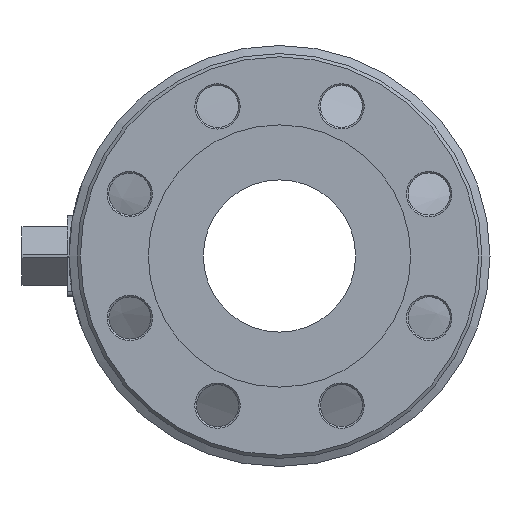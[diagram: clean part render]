
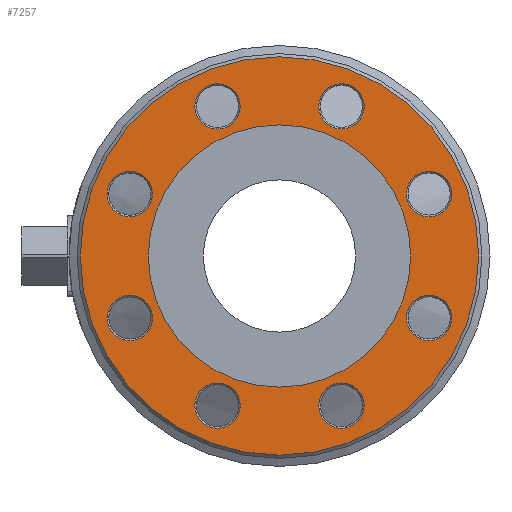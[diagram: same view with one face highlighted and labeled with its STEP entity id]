
A CAD part, left-side view. The second image highlights one B-rep face of the part: STEP entity #7257.
In plain terms, the highlighted planar face has unit normal (-1, 0, 0).
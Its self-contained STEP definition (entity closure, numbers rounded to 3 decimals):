
#7138=CARTESIAN_POINT('',(-142.5,28.369,-102.287));
#7139=VERTEX_POINT('',#7138);
#7140=CARTESIAN_POINT('',(-142.5,38.268,-92.388));
#7141=DIRECTION('',(-1.0,0.0,0.0));
#7142=DIRECTION('',(0.0,0.707,0.707));
#7143=AXIS2_PLACEMENT_3D('',#7140,#7141,#7142);
#7144=CIRCLE('',#7143,14.);
#7145=EDGE_CURVE('',#7139,#7139,#7144,.T.);
#7150=CARTESIAN_POINT('',(-142.5,-102.,0.0));
#7151=DIRECTION('',(-1.0,0.0,0.0));
#7152=DIRECTION('',(0.0,0.0,1.0));
#7153=AXIS2_PLACEMENT_3D('',#7150,#7151,#7152);
#7154=PLANE('',#7153);
#7155=CARTESIAN_POINT('',(-142.5,-123.,0.0));
#7156=VERTEX_POINT('',#7155);
#7157=CARTESIAN_POINT('',(-142.5,0.0,0.0));
#7158=DIRECTION('',(1.0,0.0,0.0));
#7159=DIRECTION('',(0.0,-1.0,0.0));
#7160=AXIS2_PLACEMENT_3D('',#7157,#7158,#7159);
#7161=CIRCLE('',#7160,123.);
#7162=EDGE_CURVE('',#7156,#7156,#7161,.T.);
#7163=ORIENTED_EDGE('',*,*,#7162,.F.);
#7164=EDGE_LOOP('',(#7163));
#7165=FACE_OUTER_BOUND('',#7164,.T.);
#7166=CARTESIAN_POINT('',(-142.5,-52.268,-92.388));
#7167=VERTEX_POINT('',#7166);
#7168=CARTESIAN_POINT('',(-142.5,-38.268,-92.388));
#7169=DIRECTION('',(-1.0,0.0,0.0));
#7170=DIRECTION('',(0.0,1.0,0.0));
#7171=AXIS2_PLACEMENT_3D('',#7168,#7169,#7170);
#7172=CIRCLE('',#7171,14.);
#7173=EDGE_CURVE('',#7167,#7167,#7172,.T.);
#7174=ORIENTED_EDGE('',*,*,#7173,.F.);
#7175=EDGE_LOOP('',(#7174));
#7176=FACE_BOUND('',#7175,.T.);
#7177=CARTESIAN_POINT('',(-142.5,-92.388,52.268));
#7178=VERTEX_POINT('',#7177);
#7179=CARTESIAN_POINT('',(-142.5,-92.388,38.268));
#7180=DIRECTION('',(-1.0,0.0,0.0));
#7181=DIRECTION('',(0.0,0.0,-1.0));
#7182=AXIS2_PLACEMENT_3D('',#7179,#7180,#7181);
#7183=CIRCLE('',#7182,14.);
#7184=EDGE_CURVE('',#7178,#7178,#7183,.T.);
#7185=ORIENTED_EDGE('',*,*,#7184,.F.);
#7186=EDGE_LOOP('',(#7185));
#7187=FACE_BOUND('',#7186,.T.);
#7188=CARTESIAN_POINT('',(-142.5,52.268,92.388));
#7189=VERTEX_POINT('',#7188);
#7190=CARTESIAN_POINT('',(-142.5,38.268,92.388));
#7191=DIRECTION('',(-1.0,0.0,0.0));
#7192=DIRECTION('',(0.0,-1.0,0.0));
#7193=AXIS2_PLACEMENT_3D('',#7190,#7191,#7192);
#7194=CIRCLE('',#7193,14.);
#7195=EDGE_CURVE('',#7189,#7189,#7194,.T.);
#7196=ORIENTED_EDGE('',*,*,#7195,.F.);
#7197=EDGE_LOOP('',(#7196));
#7198=FACE_BOUND('',#7197,.T.);
#7199=CARTESIAN_POINT('',(-142.5,92.388,-52.268));
#7200=VERTEX_POINT('',#7199);
#7201=CARTESIAN_POINT('',(-142.5,92.388,-38.268));
#7202=DIRECTION('',(-1.0,0.0,0.0));
#7203=DIRECTION('',(0.0,0.0,1.0));
#7204=AXIS2_PLACEMENT_3D('',#7201,#7202,#7203);
#7205=CIRCLE('',#7204,14.);
#7206=EDGE_CURVE('',#7200,#7200,#7205,.T.);
#7207=ORIENTED_EDGE('',*,*,#7206,.F.);
#7208=EDGE_LOOP('',(#7207));
#7209=FACE_BOUND('',#7208,.T.);
#7210=CARTESIAN_POINT('',(-142.5,-81.,0.0));
#7211=VERTEX_POINT('',#7210);
#7212=CARTESIAN_POINT('',(-142.5,0.0,0.0));
#7213=DIRECTION('',(1.0,0.0,0.0));
#7214=DIRECTION('',(0.0,-1.0,0.0));
#7215=AXIS2_PLACEMENT_3D('',#7212,#7213,#7214);
#7216=CIRCLE('',#7215,81.);
#7217=EDGE_CURVE('',#7211,#7211,#7216,.T.);
#7218=ORIENTED_EDGE('',*,*,#7217,.T.);
#7219=EDGE_LOOP('',(#7218));
#7220=FACE_BOUND('',#7219,.T.);
#7221=CARTESIAN_POINT('',(-142.5,102.287,28.369));
#7222=VERTEX_POINT('',#7221);
#7223=CARTESIAN_POINT('',(-142.5,92.388,38.268));
#7224=DIRECTION('',(-1.0,0.0,0.0));
#7225=DIRECTION('',(0.0,-0.707,0.707));
#7226=AXIS2_PLACEMENT_3D('',#7223,#7224,#7225);
#7227=CIRCLE('',#7226,14.);
#7228=EDGE_CURVE('',#7222,#7222,#7227,.T.);
#7229=ORIENTED_EDGE('',*,*,#7228,.F.);
#7230=EDGE_LOOP('',(#7229));
#7231=FACE_BOUND('',#7230,.T.);
#7232=CARTESIAN_POINT('',(-142.5,-28.369,102.287));
#7233=VERTEX_POINT('',#7232);
#7234=CARTESIAN_POINT('',(-142.5,-38.268,92.388));
#7235=DIRECTION('',(-1.0,0.0,0.0));
#7236=DIRECTION('',(0.0,-0.707,-0.707));
#7237=AXIS2_PLACEMENT_3D('',#7234,#7235,#7236);
#7238=CIRCLE('',#7237,14.0);
#7239=EDGE_CURVE('',#7233,#7233,#7238,.T.);
#7240=ORIENTED_EDGE('',*,*,#7239,.F.);
#7241=EDGE_LOOP('',(#7240));
#7242=FACE_BOUND('',#7241,.T.);
#7243=CARTESIAN_POINT('',(-142.5,-102.287,-28.369));
#7244=VERTEX_POINT('',#7243);
#7245=CARTESIAN_POINT('',(-142.5,-92.388,-38.268));
#7246=DIRECTION('',(-1.0,0.0,0.0));
#7247=DIRECTION('',(0.0,0.707,-0.707));
#7248=AXIS2_PLACEMENT_3D('',#7245,#7246,#7247);
#7249=CIRCLE('',#7248,14.0);
#7250=EDGE_CURVE('',#7244,#7244,#7249,.T.);
#7251=ORIENTED_EDGE('',*,*,#7250,.F.);
#7252=EDGE_LOOP('',(#7251));
#7253=FACE_BOUND('',#7252,.T.);
#7254=ORIENTED_EDGE('',*,*,#7145,.F.);
#7255=EDGE_LOOP('',(#7254));
#7256=FACE_BOUND('',#7255,.T.);
#7257=ADVANCED_FACE('',(#7165,#7176,#7187,#7198,#7209,#7220,#7231,#7242,#7253,#7256),#7154,.T.);
